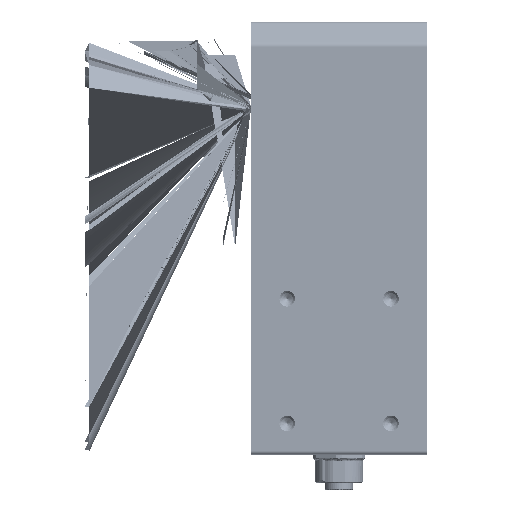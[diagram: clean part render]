
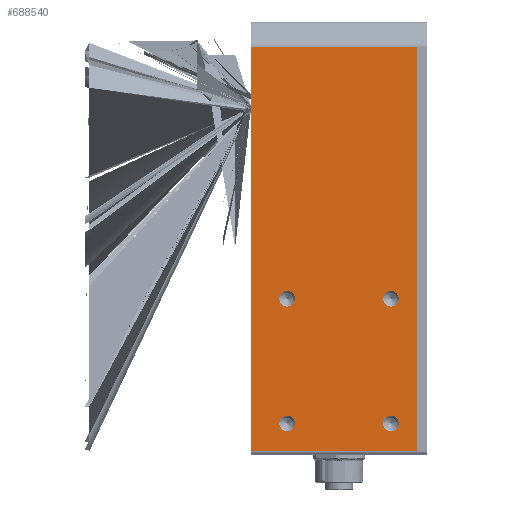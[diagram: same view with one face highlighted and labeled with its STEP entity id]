
A CAD part, front view. The second image highlights one B-rep face of the part: STEP entity #688540.
In plain terms, the highlighted planar face has unit normal (0, -1, 0) as drawn and (-1, 0, 0) by its records, which use the part's own axes.
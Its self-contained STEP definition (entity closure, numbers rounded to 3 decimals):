
#5575 = DIRECTION ( 'NONE',  ( 0., 1., 0. ) ) ;
#27456 = DIRECTION ( 'NONE',  ( -1., 0., 0. ) ) ;
#33916 = CIRCLE ( 'NONE', #743084, 2.25 ) ;
#46795 = VECTOR ( 'NONE', #267965, 1000. ) ;
#61187 = ORIENTED_EDGE ( 'NONE', *, *, #762957, .F. ) ;
#61353 = ORIENTED_EDGE ( 'NONE', *, *, #308547, .F. ) ;
#66449 = VECTOR ( 'NONE', #324051, 1000. ) ;
#66891 = DIRECTION ( 'NONE',  ( -1., 0., 0. ) ) ;
#68760 = CIRCLE ( 'NONE', #124770, 2.25 ) ;
#76764 = AXIS2_PLACEMENT_3D ( 'NONE', #223565, #27456, #371235 ) ;
#77247 = VERTEX_POINT ( 'NONE', #672926 ) ;
#94013 = VERTEX_POINT ( 'NONE', #498603 ) ;
#102521 = CARTESIAN_POINT ( 'NONE',  ( -66.5, -60., 0. ) ) ;
#124770 = AXIS2_PLACEMENT_3D ( 'NONE', #734069, #729769, #137629 ) ;
#137629 = DIRECTION ( 'NONE',  ( 0., 0., 1. ) ) ;
#155055 = VERTEX_POINT ( 'NONE', #578401 ) ;
#165094 = EDGE_CURVE ( 'NONE', #155055, #492146, #492474, .T. ) ;
#167939 = CIRCLE ( 'NONE', #473685, 2.25 ) ;
#174089 = ORIENTED_EDGE ( 'NONE', *, *, #700652, .F. ) ;
#179433 = DIRECTION ( 'NONE',  ( 0., 0., 1. ) ) ;
#179445 = DIRECTION ( 'NONE',  ( -1., 0., 0. ) ) ;
#188784 = CARTESIAN_POINT ( 'NONE',  ( -66.5, -60., 48. ) ) ;
#189606 = CARTESIAN_POINT ( 'NONE',  ( -66.5, -15., 42.75 ) ) ;
#190552 = CIRCLE ( 'NONE', #677264, 2.25 ) ;
#193786 = DIRECTION ( 'NONE',  ( 0., 0., 1. ) ) ;
#195583 = EDGE_CURVE ( 'NONE', #492146, #155055, #33916, .T. ) ;
#212455 = DIRECTION ( 'NONE',  ( -1., 0., 0. ) ) ;
#220783 = ORIENTED_EDGE ( 'NONE', *, *, #313868, .F. ) ;
#223565 = CARTESIAN_POINT ( 'NONE',  ( -66.5, -51., 10.5 ) ) ;
#225442 = CARTESIAN_POINT ( 'NONE',  ( -66.5, -51., 40.5 ) ) ;
#229778 = CIRCLE ( 'NONE', #76764, 2.25 ) ;
#248230 = DIRECTION ( 'NONE',  ( -1., 0., 0. ) ) ;
#249992 = EDGE_CURVE ( 'NONE', #94013, #532465, #190552, .T. ) ;
#253369 = EDGE_CURVE ( 'NONE', #353990, #77247, #597897, .T. ) ;
#267965 = DIRECTION ( 'NONE',  ( 0., 0., -1. ) ) ;
#277730 = VECTOR ( 'NONE', #5575, 1000. ) ;
#277959 = DIRECTION ( 'NONE',  ( 0., 0., 1. ) ) ;
#306754 = ORIENTED_EDGE ( 'NONE', *, *, #253369, .T. ) ;
#308547 = EDGE_CURVE ( 'NONE', #825237, #528408, #368049, .T. ) ;
#310209 = CARTESIAN_POINT ( 'NONE',  ( -66.5, -60., 48. ) ) ;
#310287 = ORIENTED_EDGE ( 'NONE', *, *, #571074, .T. ) ;
#313868 = EDGE_CURVE ( 'NONE', #638218, #412702, #68760, .T. ) ;
#314473 = PLANE ( 'NONE',  #765219 ) ;
#324051 = DIRECTION ( 'NONE',  ( 0., 0., 1. ) ) ;
#332663 = LINE ( 'NONE', #598145, #66449 ) ;
#333159 = CARTESIAN_POINT ( 'NONE',  ( -66.5, -15., 40.5 ) ) ;
#340998 = CIRCLE ( 'NONE', #410565, 2.25 ) ;
#347817 = AXIS2_PLACEMENT_3D ( 'NONE', #430125, #360499, #617514 ) ;
#353990 = VERTEX_POINT ( 'NONE', #462091 ) ;
#360499 = DIRECTION ( 'NONE',  ( -1., 0., 0. ) ) ;
#368049 = LINE ( 'NONE', #102521, #647506 ) ;
#371235 = DIRECTION ( 'NONE',  ( 0., 0., 1. ) ) ;
#375371 = FACE_BOUND ( 'NONE', #637045, .T. ) ;
#381890 = ORIENTED_EDGE ( 'NONE', *, *, #195583, .F. ) ;
#394506 = CARTESIAN_POINT ( 'NONE',  ( -66.5, -15., 38.25 ) ) ;
#410565 = AXIS2_PLACEMENT_3D ( 'NONE', #333159, #794692, #193786 ) ;
#412702 = VERTEX_POINT ( 'NONE', #627062 ) ;
#413008 = CARTESIAN_POINT ( 'NONE',  ( -66.5, -15., 12.75 ) ) ;
#414021 = VERTEX_POINT ( 'NONE', #189606 ) ;
#422909 = AXIS2_PLACEMENT_3D ( 'NONE', #513735, #248230, #770735 ) ;
#430125 = CARTESIAN_POINT ( 'NONE',  ( -66.5, -15., 40.5 ) ) ;
#441980 = EDGE_LOOP ( 'NONE', ( #61187, #220783 ) ) ;
#445042 = DIRECTION ( 'NONE',  ( 0., 0., 1. ) ) ;
#449330 = FACE_BOUND ( 'NONE', #593752, .T. ) ;
#462091 = CARTESIAN_POINT ( 'NONE',  ( -66.5, -59., 48. ) ) ;
#472320 = CARTESIAN_POINT ( 'NONE',  ( -66.5, 57.672, 48. ) ) ;
#473685 = AXIS2_PLACEMENT_3D ( 'NONE', #225442, #212455, #277959 ) ;
#484633 = DIRECTION ( 'NONE',  ( 0., 0., 1. ) ) ;
#492146 = VERTEX_POINT ( 'NONE', #413008 ) ;
#492474 = CIRCLE ( 'NONE', #422909, 2.25 ) ;
#498603 = CARTESIAN_POINT ( 'NONE',  ( -66.5, -51., 38.25 ) ) ;
#506654 = EDGE_CURVE ( 'NONE', #532465, #94013, #167939, .T. ) ;
#508047 = ORIENTED_EDGE ( 'NONE', *, *, #165094, .F. ) ;
#513735 = CARTESIAN_POINT ( 'NONE',  ( -66.5, -15., 10.5 ) ) ;
#520710 = EDGE_LOOP ( 'NONE', ( #61353, #310287, #306754, #767215 ) ) ;
#528408 = VERTEX_POINT ( 'NONE', #645544 ) ;
#532465 = VERTEX_POINT ( 'NONE', #861868 ) ;
#533714 = VERTEX_POINT ( 'NONE', #394506 ) ;
#571074 = EDGE_CURVE ( 'NONE', #825237, #353990, #332663, .T. ) ;
#575601 = DIRECTION ( 'NONE',  ( -1., 0., 0. ) ) ;
#578401 = CARTESIAN_POINT ( 'NONE',  ( -66.5, -15., 8.25 ) ) ;
#581120 = EDGE_CURVE ( 'NONE', #414021, #533714, #340998, .T. ) ;
#584224 = CARTESIAN_POINT ( 'NONE',  ( -66.5, -15., 10.5 ) ) ;
#593752 = EDGE_LOOP ( 'NONE', ( #594608, #660939 ) ) ;
#594353 = LINE ( 'NONE', #472320, #46795 ) ;
#594608 = ORIENTED_EDGE ( 'NONE', *, *, #506654, .F. ) ;
#597897 = LINE ( 'NONE', #188784, #277730 ) ;
#598145 = CARTESIAN_POINT ( 'NONE',  ( -66.5, -59., 48. ) ) ;
#617514 = DIRECTION ( 'NONE',  ( 0., 0., 1. ) ) ;
#627062 = CARTESIAN_POINT ( 'NONE',  ( -66.5, -51., 12.75 ) ) ;
#636689 = FACE_BOUND ( 'NONE', #441980, .T. ) ;
#637045 = EDGE_LOOP ( 'NONE', ( #798328, #174089 ) ) ;
#638218 = VERTEX_POINT ( 'NONE', #694819 ) ;
#639206 = CARTESIAN_POINT ( 'NONE',  ( -66.5, -59., 0. ) ) ;
#645544 = CARTESIAN_POINT ( 'NONE',  ( -66.5, 57.672, 0. ) ) ;
#647506 = VECTOR ( 'NONE', #760039, 1000. ) ;
#660939 = ORIENTED_EDGE ( 'NONE', *, *, #249992, .F. ) ;
#672926 = CARTESIAN_POINT ( 'NONE',  ( -66.5, 57.672, 48. ) ) ;
#677264 = AXIS2_PLACEMENT_3D ( 'NONE', #737327, #66891, #484633 ) ;
#688540 = ADVANCED_FACE ( 'NONE', ( #449330, #636689, #375371, #719096, #784488 ), #314473, .T. ) ;
#693530 = EDGE_LOOP ( 'NONE', ( #381890, #508047 ) ) ;
#694819 = CARTESIAN_POINT ( 'NONE',  ( -66.5, -51., 8.25 ) ) ;
#700652 = EDGE_CURVE ( 'NONE', #533714, #414021, #723098, .T. ) ;
#719096 = FACE_BOUND ( 'NONE', #693530, .T. ) ;
#723098 = CIRCLE ( 'NONE', #347817, 2.25 ) ;
#729769 = DIRECTION ( 'NONE',  ( -1., 0., 0. ) ) ;
#734069 = CARTESIAN_POINT ( 'NONE',  ( -66.5, -51., 10.5 ) ) ;
#737327 = CARTESIAN_POINT ( 'NONE',  ( -66.5, -51., 40.5 ) ) ;
#743084 = AXIS2_PLACEMENT_3D ( 'NONE', #584224, #179445, #445042 ) ;
#760039 = DIRECTION ( 'NONE',  ( 0., 1., 0. ) ) ;
#762957 = EDGE_CURVE ( 'NONE', #412702, #638218, #229778, .T. ) ;
#765219 = AXIS2_PLACEMENT_3D ( 'NONE', #310209, #575601, #179433 ) ;
#767215 = ORIENTED_EDGE ( 'NONE', *, *, #826178, .T. ) ;
#770735 = DIRECTION ( 'NONE',  ( 0., 0., 1. ) ) ;
#784488 = FACE_OUTER_BOUND ( 'NONE', #520710, .T. ) ;
#794692 = DIRECTION ( 'NONE',  ( -1., 0., 0. ) ) ;
#798328 = ORIENTED_EDGE ( 'NONE', *, *, #581120, .F. ) ;
#825237 = VERTEX_POINT ( 'NONE', #639206 ) ;
#826178 = EDGE_CURVE ( 'NONE', #77247, #528408, #594353, .T. ) ;
#861868 = CARTESIAN_POINT ( 'NONE',  ( -66.5, -51., 42.75 ) ) ;
